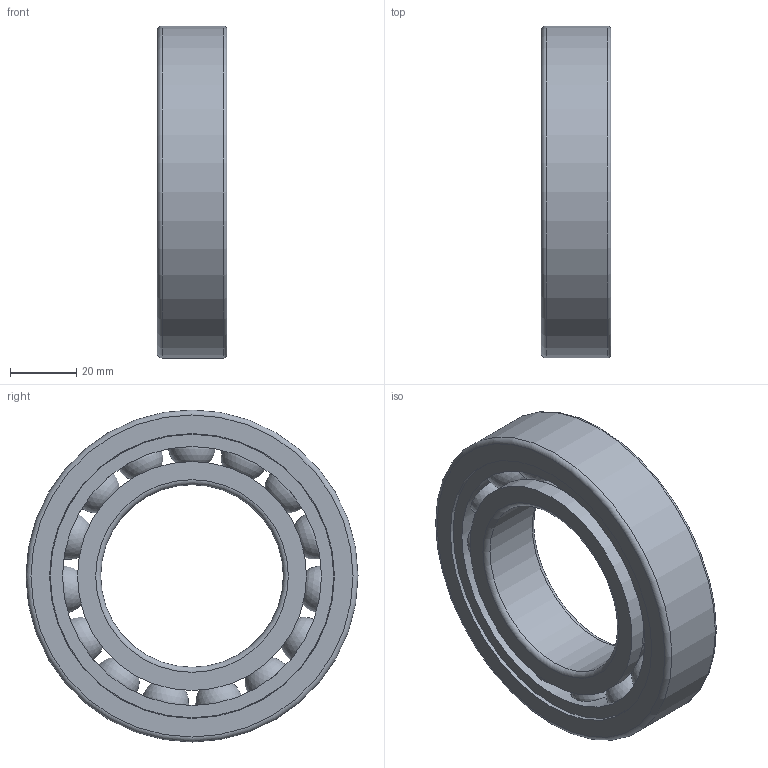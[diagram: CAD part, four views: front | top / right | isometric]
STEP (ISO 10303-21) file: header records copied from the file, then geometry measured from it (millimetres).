
FILE_DESCRIPTION(/* description */ (''),/* implementation_level */ '2;1');
FILE_NAME(/* name */ 'S_6211_TA.step',/* time_stamp */ '2013-03-06T14:49:27+01:00',/* author */ ('Marian'),/* organization */ ('GMN'),/* preprocessor_version */ 'ST-DEVELOPER v11',/* originating_system */ 'SIEMENS UGS NX 6.0',/* authorisation */ '');
FILE_SCHEMA (('CONFIG_CONTROL_DESIGN'));
Length unit declared in the file: millimetre
Products named in the file (1): S_6211_TA
Bounding box: 21 x 100 x 100 mm (x, y, z)
Volume: 86353 mm3; surface area: 45619 mm2
Topology: 18 solids, 18 shells, 50 faces, 124 edges, 80 vertices
Faces by surface type: cylinder 22, sphere 15, torus 6, plane 6, cone 1
Full cylindrical faces by diameter (mm): 14.488 x15, 55 x1, 69 x2, 77.988 x1, 85.4 x1, 85.8 x1, 100 x1
Entity records: 1608 total; most frequent: CARTESIAN_POINT 676, DIRECTION 142, FACE_BOUND 115, EDGE_LOOP 100, ORIENTED_EDGE 100, AXIS2_PLACEMENT_3D 71, VERTEX_POINT 65, EDGE_CURVE 50
